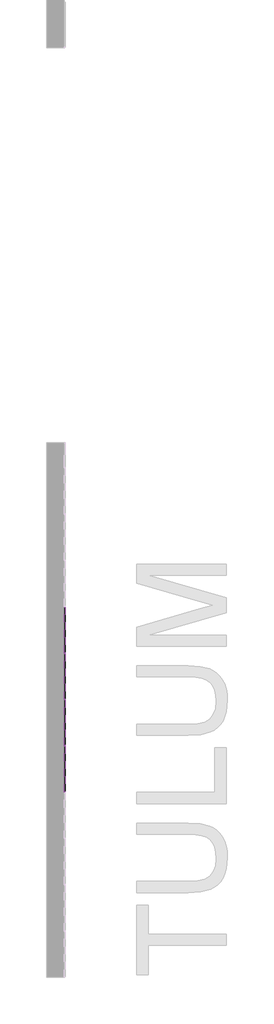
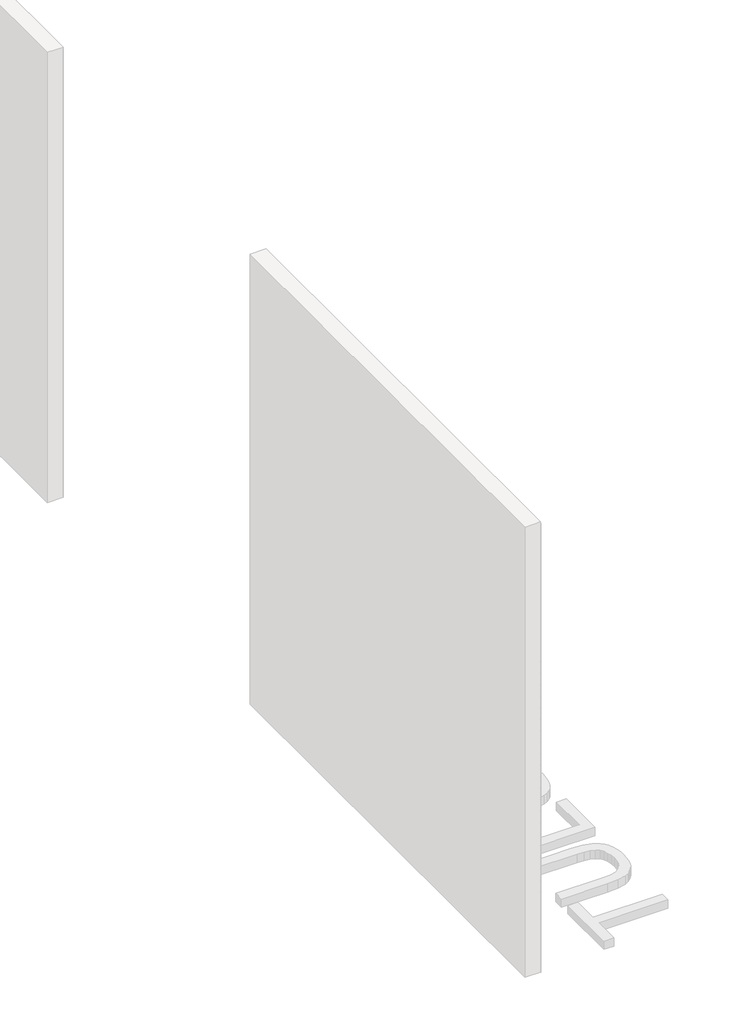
# One storey, part 37 of 45: 147 proxies.
"""IFC4 building model written with IfcOpenShell, lengths in millimetres."""

from ifc_helpers import new_model, si_unit, origin, place, context, project, spatial, transform, mapped, element, save
from components import generic_models_ab0f2c30, generic_models_8360c89e

model = new_model("IFC4")

# Units and contexts
model_context = context("Model", 3, world=origin())
ifc_project = project(units=[si_unit("LENGTHUNIT", "METRE", prefix="MILLI")], contexts=[model_context])

# Site, building, storey
site = spatial("IfcSite", under=ifc_project)
building = spatial("IfcBuilding", under=site)
storey = spatial("IfcBuildingStorey", under=building, Name="PORTOBELLO - SHOWROOM", Elevation=0.0)

# Proxies
placement = place(None, origin())
generic_models_shape = generic_models_ab0f2c30(model_context)
element("IfcBuildingElementProxy", 1, Name="PBSHOP - HORIZONTES TULUM 6,5X23 : TULUM", ObjectType="PBSHOP - HORIZONTES TULUM 6,5X23 : TULUM", at=placement, inside=storey, context=model_context, shape_type="MappedRepresentation", body=[
    mapped(generic_models_shape, transform((69111.8826867, 17058.0588567, 34.5), x_axis=(0.0, 0.0, 1.0), y_axis=(0.0, -1.0, 0.0), z_axis=(1.0, 0.0, 0.0))),
])
element("IfcBuildingElementProxy", 2, Name="PBSHOP - HORIZONTES TULUM 6,5X23 : TULUM", ObjectType="PBSHOP - HORIZONTES TULUM 6,5X23 : TULUM", at=placement, inside=storey, context=model_context, shape_type="MappedRepresentation", body=[
    mapped(generic_models_shape, transform((69111.8826867, 17292.0588567, 34.5), x_axis=(0.0, 0.0, 1.0), y_axis=(0.0, -1.0, 0.0), z_axis=(1.0, 0.0, 0.0))),
])
element("IfcBuildingElementProxy", 3, Name="PBSHOP - HORIZONTES TULUM 6,5X23 : TULUM", ObjectType="PBSHOP - HORIZONTES TULUM 6,5X23 : TULUM", at=placement, inside=storey, context=model_context, shape_type="MappedRepresentation", body=[
    mapped(generic_models_shape, transform((69111.8826867, 17526.0588567, 34.5), x_axis=(0.0, 0.0, 1.0), y_axis=(0.0, -1.0, 0.0), z_axis=(1.0, 0.0, 0.0))),
])
element("IfcBuildingElementProxy", 4, Name="PBSHOP - HORIZONTES TULUM 6,5X23 : TULUM", ObjectType="PBSHOP - HORIZONTES TULUM 6,5X23 : TULUM", at=placement, inside=storey, context=model_context, shape_type="MappedRepresentation", body=[
    mapped(generic_models_shape, transform((69111.8826867, 17058.0588567, 103.5), x_axis=(0.0, 0.0, 1.0), y_axis=(0.0, -1.0, 0.0), z_axis=(1.0, 0.0, 0.0))),
])
element("IfcBuildingElementProxy", 5, Name="PBSHOP - HORIZONTES TULUM 6,5X23 : TULUM", ObjectType="PBSHOP - HORIZONTES TULUM 6,5X23 : TULUM", at=placement, inside=storey, context=model_context, shape_type="MappedRepresentation", body=[
    mapped(generic_models_shape, transform((69111.8826867, 17292.0588567, 103.5), x_axis=(0.0, 0.0, 1.0), y_axis=(0.0, -1.0, 0.0), z_axis=(1.0, 0.0, 0.0))),
])
element("IfcBuildingElementProxy", 6, Name="PBSHOP - HORIZONTES TULUM 6,5X23 : TULUM", ObjectType="PBSHOP - HORIZONTES TULUM 6,5X23 : TULUM", at=placement, inside=storey, context=model_context, shape_type="MappedRepresentation", body=[
    mapped(generic_models_shape, transform((69111.8826867, 17526.0588567, 103.5), x_axis=(0.0, 0.0, 1.0), y_axis=(0.0, -1.0, 0.0), z_axis=(1.0, 0.0, 0.0))),
])
element("IfcBuildingElementProxy", 7, Name="PBSHOP - HORIZONTES TULUM 6,5X23 : TULUM", ObjectType="PBSHOP - HORIZONTES TULUM 6,5X23 : TULUM", at=placement, inside=storey, context=model_context, shape_type="MappedRepresentation", body=[
    mapped(generic_models_shape, transform((69111.8826867, 17058.0588567, 172.5), x_axis=(0.0, 0.0, 1.0), y_axis=(0.0, -1.0, 0.0), z_axis=(1.0, 0.0, 0.0))),
])
element("IfcBuildingElementProxy", 8, Name="PBSHOP - HORIZONTES TULUM 6,5X23 : TULUM", ObjectType="PBSHOP - HORIZONTES TULUM 6,5X23 : TULUM", at=placement, inside=storey, context=model_context, shape_type="MappedRepresentation", body=[
    mapped(generic_models_shape, transform((69111.8826867, 16590.0588567, 310.5), x_axis=(0.0, 0.0, 1.0), y_axis=(0.0, -1.0, 0.0), z_axis=(1.0, 0.0, 0.0))),
])
element("IfcBuildingElementProxy", 9, Name="PBSHOP - HORIZONTES TULUM 6,5X23 : TULUM", ObjectType="PBSHOP - HORIZONTES TULUM 6,5X23 : TULUM", at=placement, inside=storey, context=model_context, shape_type="MappedRepresentation", body=[
    mapped(generic_models_shape, transform((69111.8826867, 16824.0588567, 310.5), x_axis=(0.0, 0.0, 1.0), y_axis=(0.0, -1.0, 0.0), z_axis=(1.0, 0.0, 0.0))),
])
element("IfcBuildingElementProxy", 10, Name="PBSHOP - HORIZONTES TULUM 6,5X23 : TULUM", ObjectType="PBSHOP - HORIZONTES TULUM 6,5X23 : TULUM", at=placement, inside=storey, context=model_context, shape_type="MappedRepresentation", body=[
    mapped(generic_models_shape, transform((69111.8826867, 16122.0588567, 379.5), x_axis=(0.0, 0.0, 1.0), y_axis=(0.0, -1.0, 0.0), z_axis=(1.0, 0.0, 0.0))),
])
element("IfcBuildingElementProxy", 11, Name="PBSHOP - HORIZONTES TULUM 6,5X23 : TULUM", ObjectType="PBSHOP - HORIZONTES TULUM 6,5X23 : TULUM", at=placement, inside=storey, context=model_context, shape_type="MappedRepresentation", body=[
    mapped(generic_models_shape, transform((69111.8826867, 16356.0588567, 379.5), x_axis=(0.0, 0.0, 1.0), y_axis=(0.0, -1.0, 0.0), z_axis=(1.0, 0.0, 0.0))),
])
element("IfcBuildingElementProxy", 12, Name="PBSHOP - HORIZONTES TULUM 6,5X23 : TULUM", ObjectType="PBSHOP - HORIZONTES TULUM 6,5X23 : TULUM", at=placement, inside=storey, context=model_context, shape_type="MappedRepresentation", body=[
    mapped(generic_models_shape, transform((69111.8826867, 16590.0588567, 379.5), x_axis=(0.0, 0.0, 1.0), y_axis=(0.0, -1.0, 0.0), z_axis=(1.0, 0.0, 0.0))),
])
element("IfcBuildingElementProxy", 13, Name="PBSHOP - HORIZONTES TULUM 6,5X23 : TULUM", ObjectType="PBSHOP - HORIZONTES TULUM 6,5X23 : TULUM", at=placement, inside=storey, context=model_context, shape_type="MappedRepresentation", body=[
    mapped(generic_models_shape, transform((69111.8826867, 16824.0588567, 379.5), x_axis=(0.0, 0.0, 1.0), y_axis=(0.0, -1.0, 0.0), z_axis=(1.0, 0.0, 0.0))),
])
element("IfcBuildingElementProxy", 14, Name="PBSHOP - HORIZONTES TULUM 6,5X23 : TULUM", ObjectType="PBSHOP - HORIZONTES TULUM 6,5X23 : TULUM", at=placement, inside=storey, context=model_context, shape_type="MappedRepresentation", body=[
    mapped(generic_models_shape, transform((69111.8826867, 16122.0588567, 448.5), x_axis=(0.0, 0.0, 1.0), y_axis=(0.0, -1.0, 0.0), z_axis=(1.0, 0.0, 0.0))),
])
element("IfcBuildingElementProxy", 15, Name="PBSHOP - HORIZONTES TULUM 6,5X23 : TULUM", ObjectType="PBSHOP - HORIZONTES TULUM 6,5X23 : TULUM", at=placement, inside=storey, context=model_context, shape_type="MappedRepresentation", body=[
    mapped(generic_models_shape, transform((69111.8826867, 16356.0588567, 448.5), x_axis=(0.0, 0.0, 1.0), y_axis=(0.0, -1.0, 0.0), z_axis=(1.0, 0.0, 0.0))),
])
element("IfcBuildingElementProxy", 16, Name="PBSHOP - HORIZONTES TULUM 6,5X23 : TULUM", ObjectType="PBSHOP - HORIZONTES TULUM 6,5X23 : TULUM", at=placement, inside=storey, context=model_context, shape_type="MappedRepresentation", body=[
    mapped(generic_models_shape, transform((69111.8826867, 16590.0588567, 448.5), x_axis=(0.0, 0.0, 1.0), y_axis=(0.0, -1.0, 0.0), z_axis=(1.0, 0.0, 0.0))),
])
element("IfcBuildingElementProxy", 17, Name="PBSHOP - HORIZONTES TULUM 6,5X23 : TULUM", ObjectType="PBSHOP - HORIZONTES TULUM 6,5X23 : TULUM", at=placement, inside=storey, context=model_context, shape_type="MappedRepresentation", body=[
    mapped(generic_models_shape, transform((69111.8826867, 16824.0588567, 448.5), x_axis=(0.0, 0.0, 1.0), y_axis=(0.0, -1.0, 0.0), z_axis=(1.0, 0.0, 0.0))),
])
element("IfcBuildingElementProxy", 18, Name="PBSHOP - HORIZONTES TULUM 6,5X23 : TULUM", ObjectType="PBSHOP - HORIZONTES TULUM 6,5X23 : TULUM", at=placement, inside=storey, context=model_context, shape_type="MappedRepresentation", body=[
    mapped(generic_models_shape, transform((69111.8826867, 16122.0588567, 517.5), x_axis=(0.0, 0.0, 1.0), y_axis=(0.0, -1.0, 0.0), z_axis=(1.0, 0.0, 0.0))),
])
element("IfcBuildingElementProxy", 19, Name="PBSHOP - HORIZONTES TULUM 6,5X23 : TULUM", ObjectType="PBSHOP - HORIZONTES TULUM 6,5X23 : TULUM", at=placement, inside=storey, context=model_context, shape_type="MappedRepresentation", body=[
    mapped(generic_models_shape, transform((69111.8826867, 16356.0588567, 517.5), x_axis=(0.0, 0.0, 1.0), y_axis=(0.0, -1.0, 0.0), z_axis=(1.0, 0.0, 0.0))),
])
element("IfcBuildingElementProxy", 20, Name="PBSHOP - HORIZONTES TULUM 6,5X23 : TULUM", ObjectType="PBSHOP - HORIZONTES TULUM 6,5X23 : TULUM", at=placement, inside=storey, context=model_context, shape_type="MappedRepresentation", body=[
    mapped(generic_models_shape, transform((69111.8826867, 16590.0588567, 517.5), x_axis=(0.0, 0.0, 1.0), y_axis=(0.0, -1.0, 0.0), z_axis=(1.0, 0.0, 0.0))),
])
element("IfcBuildingElementProxy", 21, Name="PBSHOP - HORIZONTES TULUM 6,5X23 : TULUM", ObjectType="PBSHOP - HORIZONTES TULUM 6,5X23 : TULUM", at=placement, inside=storey, context=model_context, shape_type="MappedRepresentation", body=[
    mapped(generic_models_shape, transform((69111.8826867, 16824.0588567, 517.5), x_axis=(0.0, 0.0, 1.0), y_axis=(0.0, -1.0, 0.0), z_axis=(1.0, 0.0, 0.0))),
])
element("IfcBuildingElementProxy", 22, Name="PBSHOP - HORIZONTES TULUM 6,5X23 : TULUM", ObjectType="PBSHOP - HORIZONTES TULUM 6,5X23 : TULUM", at=placement, inside=storey, context=model_context, shape_type="MappedRepresentation", body=[
    mapped(generic_models_shape, transform((69111.8826867, 16122.0588567, 586.5), x_axis=(0.0, 0.0, 1.0), y_axis=(0.0, -1.0, 0.0), z_axis=(1.0, 0.0, 0.0))),
])
element("IfcBuildingElementProxy", 23, Name="PBSHOP - HORIZONTES TULUM 6,5X23 : TULUM", ObjectType="PBSHOP - HORIZONTES TULUM 6,5X23 : TULUM", at=placement, inside=storey, context=model_context, shape_type="MappedRepresentation", body=[
    mapped(generic_models_shape, transform((69111.8826867, 16356.0588567, 586.5), x_axis=(0.0, 0.0, 1.0), y_axis=(0.0, -1.0, 0.0), z_axis=(1.0, 0.0, 0.0))),
])
element("IfcBuildingElementProxy", 24, Name="PBSHOP - HORIZONTES TULUM 6,5X23 : TULUM", ObjectType="PBSHOP - HORIZONTES TULUM 6,5X23 : TULUM", at=placement, inside=storey, context=model_context, shape_type="MappedRepresentation", body=[
    mapped(generic_models_shape, transform((69111.8826867, 16590.0588567, 586.5), x_axis=(0.0, 0.0, 1.0), y_axis=(0.0, -1.0, 0.0), z_axis=(1.0, 0.0, 0.0))),
])
element("IfcBuildingElementProxy", 25, Name="PBSHOP - HORIZONTES TULUM 6,5X23 : TULUM", ObjectType="PBSHOP - HORIZONTES TULUM 6,5X23 : TULUM", at=placement, inside=storey, context=model_context, shape_type="MappedRepresentation", body=[
    mapped(generic_models_shape, transform((69111.8826867, 16824.0588567, 586.5), x_axis=(0.0, 0.0, 1.0), y_axis=(0.0, -1.0, 0.0), z_axis=(1.0, 0.0, 0.0))),
])
element("IfcBuildingElementProxy", 26, Name="PBSHOP - HORIZONTES TULUM 6,5X23 : TULUM", ObjectType="PBSHOP - HORIZONTES TULUM 6,5X23 : TULUM", at=placement, inside=storey, context=model_context, shape_type="MappedRepresentation", body=[
    mapped(generic_models_shape, transform((69111.8826867, 16122.0588567, 655.5), x_axis=(0.0, 0.0, 1.0), y_axis=(0.0, -1.0, 0.0), z_axis=(1.0, 0.0, 0.0))),
])
element("IfcBuildingElementProxy", 27, Name="PBSHOP - HORIZONTES TULUM 6,5X23 : TULUM", ObjectType="PBSHOP - HORIZONTES TULUM 6,5X23 : TULUM", at=placement, inside=storey, context=model_context, shape_type="MappedRepresentation", body=[
    mapped(generic_models_shape, transform((69111.8826867, 16356.0588567, 655.5), x_axis=(0.0, 0.0, 1.0), y_axis=(0.0, -1.0, 0.0), z_axis=(1.0, 0.0, 0.0))),
])
element("IfcBuildingElementProxy", 28, Name="PBSHOP - HORIZONTES TULUM 6,5X23 : TULUM", ObjectType="PBSHOP - HORIZONTES TULUM 6,5X23 : TULUM", at=placement, inside=storey, context=model_context, shape_type="MappedRepresentation", body=[
    mapped(generic_models_shape, transform((69111.8826867, 16590.0588567, 655.5), x_axis=(0.0, 0.0, 1.0), y_axis=(0.0, -1.0, 0.0), z_axis=(1.0, 0.0, 0.0))),
])
element("IfcBuildingElementProxy", 29, Name="PBSHOP - HORIZONTES TULUM 6,5X23 : TULUM", ObjectType="PBSHOP - HORIZONTES TULUM 6,5X23 : TULUM", at=placement, inside=storey, context=model_context, shape_type="MappedRepresentation", body=[
    mapped(generic_models_shape, transform((69111.8826867, 16824.0588567, 655.5), x_axis=(0.0, 0.0, 1.0), y_axis=(0.0, -1.0, 0.0), z_axis=(1.0, 0.0, 0.0))),
])
element("IfcBuildingElementProxy", 30, Name="PBSHOP - HORIZONTES TULUM 6,5X23 : TULUM", ObjectType="PBSHOP - HORIZONTES TULUM 6,5X23 : TULUM", at=placement, inside=storey, context=model_context, shape_type="MappedRepresentation", body=[
    mapped(generic_models_shape, transform((69111.8826867, 16122.0588567, 724.5), x_axis=(0.0, 0.0, 1.0), y_axis=(0.0, -1.0, 0.0), z_axis=(1.0, 0.0, 0.0))),
])
element("IfcBuildingElementProxy", 31, Name="PBSHOP - HORIZONTES TULUM 6,5X23 : TULUM", ObjectType="PBSHOP - HORIZONTES TULUM 6,5X23 : TULUM", at=placement, inside=storey, context=model_context, shape_type="MappedRepresentation", body=[
    mapped(generic_models_shape, transform((69111.8826867, 16356.0588567, 724.5), x_axis=(0.0, 0.0, 1.0), y_axis=(0.0, -1.0, 0.0), z_axis=(1.0, 0.0, 0.0))),
])
element("IfcBuildingElementProxy", 32, Name="PBSHOP - HORIZONTES TULUM 6,5X23 : TULUM", ObjectType="PBSHOP - HORIZONTES TULUM 6,5X23 : TULUM", at=placement, inside=storey, context=model_context, shape_type="MappedRepresentation", body=[
    mapped(generic_models_shape, transform((69111.8826867, 16590.0588567, 724.5), x_axis=(0.0, 0.0, 1.0), y_axis=(0.0, -1.0, 0.0), z_axis=(1.0, 0.0, 0.0))),
])
element("IfcBuildingElementProxy", 33, Name="PBSHOP - HORIZONTES TULUM 6,5X23 : TULUM", ObjectType="PBSHOP - HORIZONTES TULUM 6,5X23 : TULUM", at=placement, inside=storey, context=model_context, shape_type="MappedRepresentation", body=[
    mapped(generic_models_shape, transform((69111.8826867, 16824.0588567, 724.5), x_axis=(0.0, 0.0, 1.0), y_axis=(0.0, -1.0, 0.0), z_axis=(1.0, 0.0, 0.0))),
])
element("IfcBuildingElementProxy", 34, Name="PBSHOP - HORIZONTES TULUM 6,5X23 : TULUM", ObjectType="PBSHOP - HORIZONTES TULUM 6,5X23 : TULUM", at=placement, inside=storey, context=model_context, shape_type="MappedRepresentation", body=[
    mapped(generic_models_shape, transform((69111.8826867, 16122.0588567, 793.5), x_axis=(0.0, 0.0, 1.0), y_axis=(0.0, -1.0, 0.0), z_axis=(1.0, 0.0, 0.0))),
])
element("IfcBuildingElementProxy", 35, Name="PBSHOP - HORIZONTES TULUM 6,5X23 : TULUM", ObjectType="PBSHOP - HORIZONTES TULUM 6,5X23 : TULUM", at=placement, inside=storey, context=model_context, shape_type="MappedRepresentation", body=[
    mapped(generic_models_shape, transform((69111.8826867, 16356.0588567, 793.5), x_axis=(0.0, 0.0, 1.0), y_axis=(0.0, -1.0, 0.0), z_axis=(1.0, 0.0, 0.0))),
])
element("IfcBuildingElementProxy", 36, Name="PBSHOP - HORIZONTES TULUM 6,5X23 : TULUM", ObjectType="PBSHOP - HORIZONTES TULUM 6,5X23 : TULUM", at=placement, inside=storey, context=model_context, shape_type="MappedRepresentation", body=[
    mapped(generic_models_shape, transform((69111.8826867, 16590.0588567, 793.5), x_axis=(0.0, 0.0, 1.0), y_axis=(0.0, -1.0, 0.0), z_axis=(1.0, 0.0, 0.0))),
])
element("IfcBuildingElementProxy", 37, Name="PBSHOP - HORIZONTES TULUM 6,5X23 : TULUM", ObjectType="PBSHOP - HORIZONTES TULUM 6,5X23 : TULUM", at=placement, inside=storey, context=model_context, shape_type="MappedRepresentation", body=[
    mapped(generic_models_shape, transform((69111.8826867, 16824.0588567, 793.5), x_axis=(0.0, 0.0, 1.0), y_axis=(0.0, -1.0, 0.0), z_axis=(1.0, 0.0, 0.0))),
])
element("IfcBuildingElementProxy", 38, Name="PBSHOP - HORIZONTES TULUM 6,5X23 : TULUM", ObjectType="PBSHOP - HORIZONTES TULUM 6,5X23 : TULUM", at=placement, inside=storey, context=model_context, shape_type="MappedRepresentation", body=[
    mapped(generic_models_shape, transform((69111.8826867, 16122.0588567, 862.5), x_axis=(0.0, 0.0, 1.0), y_axis=(0.0, -1.0, 0.0), z_axis=(1.0, 0.0, 0.0))),
])
element("IfcBuildingElementProxy", 39, Name="PBSHOP - HORIZONTES TULUM 6,5X23 : TULUM", ObjectType="PBSHOP - HORIZONTES TULUM 6,5X23 : TULUM", at=placement, inside=storey, context=model_context, shape_type="MappedRepresentation", body=[
    mapped(generic_models_shape, transform((69111.8826867, 16356.0588567, 862.5), x_axis=(0.0, 0.0, 1.0), y_axis=(0.0, -1.0, 0.0), z_axis=(1.0, 0.0, 0.0))),
])
element("IfcBuildingElementProxy", 40, Name="PBSHOP - HORIZONTES TULUM 6,5X23 : TULUM", ObjectType="PBSHOP - HORIZONTES TULUM 6,5X23 : TULUM", at=placement, inside=storey, context=model_context, shape_type="MappedRepresentation", body=[
    mapped(generic_models_shape, transform((69111.8826867, 16590.0588567, 862.5), x_axis=(0.0, 0.0, 1.0), y_axis=(0.0, -1.0, 0.0), z_axis=(1.0, 0.0, 0.0))),
])
element("IfcBuildingElementProxy", 41, Name="PBSHOP - HORIZONTES TULUM 6,5X23 : TULUM", ObjectType="PBSHOP - HORIZONTES TULUM 6,5X23 : TULUM", at=placement, inside=storey, context=model_context, shape_type="MappedRepresentation", body=[
    mapped(generic_models_shape, transform((69111.8826867, 16824.0588567, 862.5), x_axis=(0.0, 0.0, 1.0), y_axis=(0.0, -1.0, 0.0), z_axis=(1.0, 0.0, 0.0))),
])
element("IfcBuildingElementProxy", 42, Name="PBSHOP - HORIZONTES TULUM 6,5X23 : TULUM", ObjectType="PBSHOP - HORIZONTES TULUM 6,5X23 : TULUM", at=placement, inside=storey, context=model_context, shape_type="MappedRepresentation", body=[
    mapped(generic_models_shape, transform((69111.8826867, 16122.0588567, 931.5), x_axis=(0.0, 0.0, 1.0), y_axis=(0.0, -1.0, 0.0), z_axis=(1.0, 0.0, 0.0))),
])
element("IfcBuildingElementProxy", 43, Name="PBSHOP - HORIZONTES TULUM 6,5X23 : TULUM", ObjectType="PBSHOP - HORIZONTES TULUM 6,5X23 : TULUM", at=placement, inside=storey, context=model_context, shape_type="MappedRepresentation", body=[
    mapped(generic_models_shape, transform((69111.8826867, 16356.0588567, 931.5), x_axis=(0.0, 0.0, 1.0), y_axis=(0.0, -1.0, 0.0), z_axis=(1.0, 0.0, 0.0))),
])
element("IfcBuildingElementProxy", 44, Name="PBSHOP - HORIZONTES TULUM 6,5X23 : TULUM", ObjectType="PBSHOP - HORIZONTES TULUM 6,5X23 : TULUM", at=placement, inside=storey, context=model_context, shape_type="MappedRepresentation", body=[
    mapped(generic_models_shape, transform((69111.8826867, 16590.0588567, 931.5), x_axis=(0.0, 0.0, 1.0), y_axis=(0.0, -1.0, 0.0), z_axis=(1.0, 0.0, 0.0))),
])
element("IfcBuildingElementProxy", 45, Name="PBSHOP - HORIZONTES TULUM 6,5X23 : TULUM", ObjectType="PBSHOP - HORIZONTES TULUM 6,5X23 : TULUM", at=placement, inside=storey, context=model_context, shape_type="MappedRepresentation", body=[
    mapped(generic_models_shape, transform((69111.8826867, 16824.0588567, 931.5), x_axis=(0.0, 0.0, 1.0), y_axis=(0.0, -1.0, 0.0), z_axis=(1.0, 0.0, 0.0))),
])
element("IfcBuildingElementProxy", 46, Name="PBSHOP - HORIZONTES TULUM 6,5X23 : TULUM", ObjectType="PBSHOP - HORIZONTES TULUM 6,5X23 : TULUM", at=placement, inside=storey, context=model_context, shape_type="MappedRepresentation", body=[
    mapped(generic_models_shape, transform((69111.8826867, 16122.0588567, 1000.5), x_axis=(0.0, 0.0, 1.0), y_axis=(0.0, -1.0, 0.0), z_axis=(1.0, 0.0, 0.0))),
])
element("IfcBuildingElementProxy", 47, Name="PBSHOP - HORIZONTES TULUM 6,5X23 : TULUM", ObjectType="PBSHOP - HORIZONTES TULUM 6,5X23 : TULUM", at=placement, inside=storey, context=model_context, shape_type="MappedRepresentation", body=[
    mapped(generic_models_shape, transform((69111.8826867, 16356.0588567, 1000.5), x_axis=(0.0, 0.0, 1.0), y_axis=(0.0, -1.0, 0.0), z_axis=(1.0, 0.0, 0.0))),
])
element("IfcBuildingElementProxy", 48, Name="PBSHOP - HORIZONTES TULUM 6,5X23 : TULUM", ObjectType="PBSHOP - HORIZONTES TULUM 6,5X23 : TULUM", at=placement, inside=storey, context=model_context, shape_type="MappedRepresentation", body=[
    mapped(generic_models_shape, transform((69111.8826867, 16590.0588567, 1000.5), x_axis=(0.0, 0.0, 1.0), y_axis=(0.0, -1.0, 0.0), z_axis=(1.0, 0.0, 0.0))),
])
element("IfcBuildingElementProxy", 49, Name="PBSHOP - HORIZONTES TULUM 6,5X23 : TULUM", ObjectType="PBSHOP - HORIZONTES TULUM 6,5X23 : TULUM", at=placement, inside=storey, context=model_context, shape_type="MappedRepresentation", body=[
    mapped(generic_models_shape, transform((69111.8826867, 16824.0588567, 1000.5), x_axis=(0.0, 0.0, 1.0), y_axis=(0.0, -1.0, 0.0), z_axis=(1.0, 0.0, 0.0))),
])
element("IfcBuildingElementProxy", 50, Name="PBSHOP - HORIZONTES TULUM 6,5X23 : TULUM", ObjectType="PBSHOP - HORIZONTES TULUM 6,5X23 : TULUM", at=placement, inside=storey, context=model_context, shape_type="MappedRepresentation", body=[
    mapped(generic_models_shape, transform((69111.8826867, 16122.0588567, 1069.5), x_axis=(0.0, 0.0, 1.0), y_axis=(0.0, -1.0, 0.0), z_axis=(1.0, 0.0, 0.0))),
])
element("IfcBuildingElementProxy", 51, Name="PBSHOP - HORIZONTES TULUM 6,5X23 : TULUM", ObjectType="PBSHOP - HORIZONTES TULUM 6,5X23 : TULUM", at=placement, inside=storey, context=model_context, shape_type="MappedRepresentation", body=[
    mapped(generic_models_shape, transform((69111.8826867, 16356.0588567, 1069.5), x_axis=(0.0, 0.0, 1.0), y_axis=(0.0, -1.0, 0.0), z_axis=(1.0, 0.0, 0.0))),
])
element("IfcBuildingElementProxy", 52, Name="PBSHOP - HORIZONTES TULUM 6,5X23 : TULUM", ObjectType="PBSHOP - HORIZONTES TULUM 6,5X23 : TULUM", at=placement, inside=storey, context=model_context, shape_type="MappedRepresentation", body=[
    mapped(generic_models_shape, transform((69111.8826867, 16590.0588567, 1069.5), x_axis=(0.0, 0.0, 1.0), y_axis=(0.0, -1.0, 0.0), z_axis=(1.0, 0.0, 0.0))),
])
element("IfcBuildingElementProxy", 53, Name="PBSHOP - HORIZONTES TULUM 6,5X23 : TULUM", ObjectType="PBSHOP - HORIZONTES TULUM 6,5X23 : TULUM", at=placement, inside=storey, context=model_context, shape_type="MappedRepresentation", body=[
    mapped(generic_models_shape, transform((69111.8826867, 16824.0588567, 1069.5), x_axis=(0.0, 0.0, 1.0), y_axis=(0.0, -1.0, 0.0), z_axis=(1.0, 0.0, 0.0))),
])
element("IfcBuildingElementProxy", 54, Name="PBSHOP - HORIZONTES TULUM 6,5X23 : TULUM", ObjectType="PBSHOP - HORIZONTES TULUM 6,5X23 : TULUM", at=placement, inside=storey, context=model_context, shape_type="MappedRepresentation", body=[
    mapped(generic_models_shape, transform((69111.8826867, 16122.0588567, 1138.5), x_axis=(0.0, 0.0, 1.0), y_axis=(0.0, -1.0, 0.0), z_axis=(1.0, 0.0, 0.0))),
])
element("IfcBuildingElementProxy", 55, Name="PBSHOP - HORIZONTES TULUM 6,5X23 : TULUM", ObjectType="PBSHOP - HORIZONTES TULUM 6,5X23 : TULUM", at=placement, inside=storey, context=model_context, shape_type="MappedRepresentation", body=[
    mapped(generic_models_shape, transform((69111.8826867, 16356.0588567, 1138.5), x_axis=(0.0, 0.0, 1.0), y_axis=(0.0, -1.0, 0.0), z_axis=(1.0, 0.0, 0.0))),
])
element("IfcBuildingElementProxy", 56, Name="PBSHOP - HORIZONTES TULUM 6,5X23 : TULUM", ObjectType="PBSHOP - HORIZONTES TULUM 6,5X23 : TULUM", at=placement, inside=storey, context=model_context, shape_type="MappedRepresentation", body=[
    mapped(generic_models_shape, transform((69111.8826867, 16590.0588567, 1138.5), x_axis=(0.0, 0.0, 1.0), y_axis=(0.0, -1.0, 0.0), z_axis=(1.0, 0.0, 0.0))),
])
element("IfcBuildingElementProxy", 57, Name="PBSHOP - HORIZONTES TULUM 6,5X23 : TULUM", ObjectType="PBSHOP - HORIZONTES TULUM 6,5X23 : TULUM", at=placement, inside=storey, context=model_context, shape_type="MappedRepresentation", body=[
    mapped(generic_models_shape, transform((69111.8826867, 16824.0588567, 1138.5), x_axis=(0.0, 0.0, 1.0), y_axis=(0.0, -1.0, 0.0), z_axis=(1.0, 0.0, 0.0))),
])
element("IfcBuildingElementProxy", 58, Name="PBSHOP - HORIZONTES TULUM 6,5X23 : TULUM", ObjectType="PBSHOP - HORIZONTES TULUM 6,5X23 : TULUM", at=placement, inside=storey, context=model_context, shape_type="MappedRepresentation", body=[
    mapped(generic_models_shape, transform((69111.8826867, 16122.0588567, 1207.5), x_axis=(0.0, 0.0, 1.0), y_axis=(0.0, -1.0, 0.0), z_axis=(1.0, 0.0, 0.0))),
])
element("IfcBuildingElementProxy", 59, Name="PBSHOP - HORIZONTES TULUM 6,5X23 : TULUM", ObjectType="PBSHOP - HORIZONTES TULUM 6,5X23 : TULUM", at=placement, inside=storey, context=model_context, shape_type="MappedRepresentation", body=[
    mapped(generic_models_shape, transform((69111.8826867, 16356.0588567, 1207.5), x_axis=(0.0, 0.0, 1.0), y_axis=(0.0, -1.0, 0.0), z_axis=(1.0, 0.0, 0.0))),
])
element("IfcBuildingElementProxy", 60, Name="PBSHOP - HORIZONTES TULUM 6,5X23 : TULUM", ObjectType="PBSHOP - HORIZONTES TULUM 6,5X23 : TULUM", at=placement, inside=storey, context=model_context, shape_type="MappedRepresentation", body=[
    mapped(generic_models_shape, transform((69111.8826867, 16590.0588567, 1207.5), x_axis=(0.0, 0.0, 1.0), y_axis=(0.0, -1.0, 0.0), z_axis=(1.0, 0.0, 0.0))),
])
element("IfcBuildingElementProxy", 61, Name="PBSHOP - HORIZONTES TULUM 6,5X23 : TULUM", ObjectType="PBSHOP - HORIZONTES TULUM 6,5X23 : TULUM", at=placement, inside=storey, context=model_context, shape_type="MappedRepresentation", body=[
    mapped(generic_models_shape, transform((69111.8826867, 16824.0588567, 1207.5), x_axis=(0.0, 0.0, 1.0), y_axis=(0.0, -1.0, 0.0), z_axis=(1.0, 0.0, 0.0))),
])
element("IfcBuildingElementProxy", 62, Name="PBSHOP - HORIZONTES TULUM 6,5X23 : TULUM", ObjectType="PBSHOP - HORIZONTES TULUM 6,5X23 : TULUM", at=placement, inside=storey, context=model_context, shape_type="MappedRepresentation", body=[
    mapped(generic_models_shape, transform((69111.8826867, 16122.0588567, 1276.5), x_axis=(0.0, 0.0, 1.0), y_axis=(0.0, -1.0, 0.0), z_axis=(1.0, 0.0, 0.0))),
])
element("IfcBuildingElementProxy", 63, Name="PBSHOP - HORIZONTES TULUM 6,5X23 : TULUM", ObjectType="PBSHOP - HORIZONTES TULUM 6,5X23 : TULUM", at=placement, inside=storey, context=model_context, shape_type="MappedRepresentation", body=[
    mapped(generic_models_shape, transform((69111.8826867, 16356.0588567, 1276.5), x_axis=(0.0, 0.0, 1.0), y_axis=(0.0, -1.0, 0.0), z_axis=(1.0, 0.0, 0.0))),
])
element("IfcBuildingElementProxy", 64, Name="PBSHOP - HORIZONTES TULUM 6,5X23 : TULUM", ObjectType="PBSHOP - HORIZONTES TULUM 6,5X23 : TULUM", at=placement, inside=storey, context=model_context, shape_type="MappedRepresentation", body=[
    mapped(generic_models_shape, transform((69111.8826867, 16590.0588567, 1276.5), x_axis=(0.0, 0.0, 1.0), y_axis=(0.0, -1.0, 0.0), z_axis=(1.0, 0.0, 0.0))),
])
element("IfcBuildingElementProxy", 65, Name="PBSHOP - HORIZONTES TULUM 6,5X23 : TULUM", ObjectType="PBSHOP - HORIZONTES TULUM 6,5X23 : TULUM", at=placement, inside=storey, context=model_context, shape_type="MappedRepresentation", body=[
    mapped(generic_models_shape, transform((69111.8826867, 16824.0588567, 1276.5), x_axis=(0.0, 0.0, 1.0), y_axis=(0.0, -1.0, 0.0), z_axis=(1.0, 0.0, 0.0))),
])
element("IfcBuildingElementProxy", 66, Name="PBSHOP - HORIZONTES TULUM 6,5X23 : TULUM", ObjectType="PBSHOP - HORIZONTES TULUM 6,5X23 : TULUM", at=placement, inside=storey, context=model_context, shape_type="MappedRepresentation", body=[
    mapped(generic_models_shape, transform((69111.8826867, 16122.0588567, 1345.5), x_axis=(0.0, 0.0, 1.0), y_axis=(0.0, -1.0, 0.0), z_axis=(1.0, 0.0, 0.0))),
])
element("IfcBuildingElementProxy", 67, Name="PBSHOP - HORIZONTES TULUM 6,5X23 : TULUM", ObjectType="PBSHOP - HORIZONTES TULUM 6,5X23 : TULUM", at=placement, inside=storey, context=model_context, shape_type="MappedRepresentation", body=[
    mapped(generic_models_shape, transform((69111.8826867, 16356.0588567, 1345.5), x_axis=(0.0, 0.0, 1.0), y_axis=(0.0, -1.0, 0.0), z_axis=(1.0, 0.0, 0.0))),
])
element("IfcBuildingElementProxy", 68, Name="PBSHOP - HORIZONTES TULUM 6,5X23 : TULUM", ObjectType="PBSHOP - HORIZONTES TULUM 6,5X23 : TULUM", at=placement, inside=storey, context=model_context, shape_type="MappedRepresentation", body=[
    mapped(generic_models_shape, transform((69111.8826867, 16590.0588567, 1345.5), x_axis=(0.0, 0.0, 1.0), y_axis=(0.0, -1.0, 0.0), z_axis=(1.0, 0.0, 0.0))),
])
element("IfcBuildingElementProxy", 69, Name="PBSHOP - HORIZONTES TULUM 6,5X23 : TULUM", ObjectType="PBSHOP - HORIZONTES TULUM 6,5X23 : TULUM", at=placement, inside=storey, context=model_context, shape_type="MappedRepresentation", body=[
    mapped(generic_models_shape, transform((69111.8826867, 16824.0588567, 1345.5), x_axis=(0.0, 0.0, 1.0), y_axis=(0.0, -1.0, 0.0), z_axis=(1.0, 0.0, 0.0))),
])
element("IfcBuildingElementProxy", 70, Name="PBSHOP - HORIZONTES TULUM 6,5X23 : TULUM", ObjectType="PBSHOP - HORIZONTES TULUM 6,5X23 : TULUM", at=placement, inside=storey, context=model_context, shape_type="MappedRepresentation", body=[
    mapped(generic_models_shape, transform((69111.8826867, 16122.0588567, 1414.5), x_axis=(0.0, 0.0, 1.0), y_axis=(0.0, -1.0, 0.0), z_axis=(1.0, 0.0, 0.0))),
])
element("IfcBuildingElementProxy", 71, Name="PBSHOP - HORIZONTES TULUM 6,5X23 : TULUM", ObjectType="PBSHOP - HORIZONTES TULUM 6,5X23 : TULUM", at=placement, inside=storey, context=model_context, shape_type="MappedRepresentation", body=[
    mapped(generic_models_shape, transform((69111.8826867, 16356.0588567, 1414.5), x_axis=(0.0, 0.0, 1.0), y_axis=(0.0, -1.0, 0.0), z_axis=(1.0, 0.0, 0.0))),
])
element("IfcBuildingElementProxy", 72, Name="PBSHOP - HORIZONTES TULUM 6,5X23 : TULUM", ObjectType="PBSHOP - HORIZONTES TULUM 6,5X23 : TULUM", at=placement, inside=storey, context=model_context, shape_type="MappedRepresentation", body=[
    mapped(generic_models_shape, transform((69111.8826867, 16590.0588567, 1414.5), x_axis=(0.0, 0.0, 1.0), y_axis=(0.0, -1.0, 0.0), z_axis=(1.0, 0.0, 0.0))),
])
element("IfcBuildingElementProxy", 73, Name="PBSHOP - HORIZONTES TULUM 6,5X23 : TULUM", ObjectType="PBSHOP - HORIZONTES TULUM 6,5X23 : TULUM", at=placement, inside=storey, context=model_context, shape_type="MappedRepresentation", body=[
    mapped(generic_models_shape, transform((69111.8826867, 16824.0588567, 1414.5), x_axis=(0.0, 0.0, 1.0), y_axis=(0.0, -1.0, 0.0), z_axis=(1.0, 0.0, 0.0))),
])
element("IfcBuildingElementProxy", 74, Name="PBSHOP - HORIZONTES TULUM 6,5X23 : TULUM", ObjectType="PBSHOP - HORIZONTES TULUM 6,5X23 : TULUM", at=placement, inside=storey, context=model_context, shape_type="MappedRepresentation", body=[
    mapped(generic_models_shape, transform((69111.8826867, 16122.0588567, 1483.5), x_axis=(0.0, 0.0, 1.0), y_axis=(0.0, -1.0, 0.0), z_axis=(1.0, 0.0, 0.0))),
])
element("IfcBuildingElementProxy", 75, Name="PBSHOP - HORIZONTES TULUM 6,5X23 : TULUM", ObjectType="PBSHOP - HORIZONTES TULUM 6,5X23 : TULUM", at=placement, inside=storey, context=model_context, shape_type="MappedRepresentation", body=[
    mapped(generic_models_shape, transform((69111.8826867, 16356.0588567, 1483.5), x_axis=(0.0, 0.0, 1.0), y_axis=(0.0, -1.0, 0.0), z_axis=(1.0, 0.0, 0.0))),
])
element("IfcBuildingElementProxy", 76, Name="PBSHOP - HORIZONTES TULUM 6,5X23 : TULUM", ObjectType="PBSHOP - HORIZONTES TULUM 6,5X23 : TULUM", at=placement, inside=storey, context=model_context, shape_type="MappedRepresentation", body=[
    mapped(generic_models_shape, transform((69111.8826867, 16590.0588567, 1483.5), x_axis=(0.0, 0.0, 1.0), y_axis=(0.0, -1.0, 0.0), z_axis=(1.0, 0.0, 0.0))),
])
element("IfcBuildingElementProxy", 77, Name="PBSHOP - HORIZONTES TULUM 6,5X23 : TULUM", ObjectType="PBSHOP - HORIZONTES TULUM 6,5X23 : TULUM", at=placement, inside=storey, context=model_context, shape_type="MappedRepresentation", body=[
    mapped(generic_models_shape, transform((69111.8826867, 16824.0588567, 1483.5), x_axis=(0.0, 0.0, 1.0), y_axis=(0.0, -1.0, 0.0), z_axis=(1.0, 0.0, 0.0))),
])
element("IfcBuildingElementProxy", 78, Name="PBSHOP - HORIZONTES TULUM 6,5X23 : TULUM", ObjectType="PBSHOP - HORIZONTES TULUM 6,5X23 : TULUM", at=placement, inside=storey, context=model_context, shape_type="MappedRepresentation", body=[
    mapped(generic_models_shape, transform((69111.8826867, 16122.0588567, 1552.5), x_axis=(0.0, 0.0, 1.0), y_axis=(0.0, -1.0, 0.0), z_axis=(1.0, 0.0, 0.0))),
])
element("IfcBuildingElementProxy", 79, Name="PBSHOP - HORIZONTES TULUM 6,5X23 : TULUM", ObjectType="PBSHOP - HORIZONTES TULUM 6,5X23 : TULUM", at=placement, inside=storey, context=model_context, shape_type="MappedRepresentation", body=[
    mapped(generic_models_shape, transform((69111.8826867, 16356.0588567, 1552.5), x_axis=(0.0, 0.0, 1.0), y_axis=(0.0, -1.0, 0.0), z_axis=(1.0, 0.0, 0.0))),
])
element("IfcBuildingElementProxy", 80, Name="PBSHOP - HORIZONTES TULUM 6,5X23 : TULUM", ObjectType="PBSHOP - HORIZONTES TULUM 6,5X23 : TULUM", at=placement, inside=storey, context=model_context, shape_type="MappedRepresentation", body=[
    mapped(generic_models_shape, transform((69111.8826867, 16590.0588567, 1552.5), x_axis=(0.0, 0.0, 1.0), y_axis=(0.0, -1.0, 0.0), z_axis=(1.0, 0.0, 0.0))),
])
element("IfcBuildingElementProxy", 81, Name="PBSHOP - HORIZONTES TULUM 6,5X23 : TULUM", ObjectType="PBSHOP - HORIZONTES TULUM 6,5X23 : TULUM", at=placement, inside=storey, context=model_context, shape_type="MappedRepresentation", body=[
    mapped(generic_models_shape, transform((69111.8826867, 16824.0588567, 1552.5), x_axis=(0.0, 0.0, 1.0), y_axis=(0.0, -1.0, 0.0), z_axis=(1.0, 0.0, 0.0))),
])
element("IfcBuildingElementProxy", 82, Name="PBSHOP - HORIZONTES TULUM 6,5X23 : TULUM", ObjectType="PBSHOP - HORIZONTES TULUM 6,5X23 : TULUM", at=placement, inside=storey, context=model_context, shape_type="MappedRepresentation", body=[
    mapped(generic_models_shape, transform((69111.8826867, 16122.0588567, 1621.5), x_axis=(0.0, 0.0, 1.0), y_axis=(0.0, -1.0, 0.0), z_axis=(1.0, 0.0, 0.0))),
])
element("IfcBuildingElementProxy", 83, Name="PBSHOP - HORIZONTES TULUM 6,5X23 : TULUM", ObjectType="PBSHOP - HORIZONTES TULUM 6,5X23 : TULUM", at=placement, inside=storey, context=model_context, shape_type="MappedRepresentation", body=[
    mapped(generic_models_shape, transform((69111.8826867, 16356.0588567, 1621.5), x_axis=(0.0, 0.0, 1.0), y_axis=(0.0, -1.0, 0.0), z_axis=(1.0, 0.0, 0.0))),
])
element("IfcBuildingElementProxy", 84, Name="PBSHOP - HORIZONTES TULUM 6,5X23 : TULUM", ObjectType="PBSHOP - HORIZONTES TULUM 6,5X23 : TULUM", at=placement, inside=storey, context=model_context, shape_type="MappedRepresentation", body=[
    mapped(generic_models_shape, transform((69111.8826867, 16590.0588567, 1621.5), x_axis=(0.0, 0.0, 1.0), y_axis=(0.0, -1.0, 0.0), z_axis=(1.0, 0.0, 0.0))),
])
element("IfcBuildingElementProxy", 85, Name="PBSHOP - HORIZONTES TULUM 6,5X23 : TULUM", ObjectType="PBSHOP - HORIZONTES TULUM 6,5X23 : TULUM", at=placement, inside=storey, context=model_context, shape_type="MappedRepresentation", body=[
    mapped(generic_models_shape, transform((69111.8826867, 16824.0588567, 1621.5), x_axis=(0.0, 0.0, 1.0), y_axis=(0.0, -1.0, 0.0), z_axis=(1.0, 0.0, 0.0))),
])
element("IfcBuildingElementProxy", 86, Name="PBSHOP - HORIZONTES TULUM 6,5X23 : TULUM", ObjectType="PBSHOP - HORIZONTES TULUM 6,5X23 : TULUM", at=placement, inside=storey, context=model_context, shape_type="MappedRepresentation", body=[
    mapped(generic_models_shape, transform((69111.8826867, 16122.0588567, 1690.5), x_axis=(0.0, 0.0, 1.0), y_axis=(0.0, -1.0, 0.0), z_axis=(1.0, 0.0, 0.0))),
])
element("IfcBuildingElementProxy", 87, Name="PBSHOP - HORIZONTES TULUM 6,5X23 : TULUM", ObjectType="PBSHOP - HORIZONTES TULUM 6,5X23 : TULUM", at=placement, inside=storey, context=model_context, shape_type="MappedRepresentation", body=[
    mapped(generic_models_shape, transform((69111.8826867, 16356.0588567, 1690.5), x_axis=(0.0, 0.0, 1.0), y_axis=(0.0, -1.0, 0.0), z_axis=(1.0, 0.0, 0.0))),
])
element("IfcBuildingElementProxy", 88, Name="PBSHOP - HORIZONTES TULUM 6,5X23 : TULUM", ObjectType="PBSHOP - HORIZONTES TULUM 6,5X23 : TULUM", at=placement, inside=storey, context=model_context, shape_type="MappedRepresentation", body=[
    mapped(generic_models_shape, transform((69111.8826867, 16590.0588567, 1690.5), x_axis=(0.0, 0.0, 1.0), y_axis=(0.0, -1.0, 0.0), z_axis=(1.0, 0.0, 0.0))),
])
element("IfcBuildingElementProxy", 89, Name="PBSHOP - HORIZONTES TULUM 6,5X23 : TULUM", ObjectType="PBSHOP - HORIZONTES TULUM 6,5X23 : TULUM", at=placement, inside=storey, context=model_context, shape_type="MappedRepresentation", body=[
    mapped(generic_models_shape, transform((69111.8826867, 16824.0588567, 1690.5), x_axis=(0.0, 0.0, 1.0), y_axis=(0.0, -1.0, 0.0), z_axis=(1.0, 0.0, 0.0))),
])
element("IfcBuildingElementProxy", 90, Name="PBSHOP - HORIZONTES TULUM 6,5X23 : TULUM", ObjectType="PBSHOP - HORIZONTES TULUM 6,5X23 : TULUM", at=placement, inside=storey, context=model_context, shape_type="MappedRepresentation", body=[
    mapped(generic_models_shape, transform((69111.8826867, 16122.0588567, 1759.5), x_axis=(0.0, 0.0, 1.0), y_axis=(0.0, -1.0, 0.0), z_axis=(1.0, 0.0, 0.0))),
])
element("IfcBuildingElementProxy", 91, Name="PBSHOP - HORIZONTES TULUM 6,5X23 : TULUM", ObjectType="PBSHOP - HORIZONTES TULUM 6,5X23 : TULUM", at=placement, inside=storey, context=model_context, shape_type="MappedRepresentation", body=[
    mapped(generic_models_shape, transform((69111.8826867, 16356.0588567, 1759.5), x_axis=(0.0, 0.0, 1.0), y_axis=(0.0, -1.0, 0.0), z_axis=(1.0, 0.0, 0.0))),
])
element("IfcBuildingElementProxy", 92, Name="PBSHOP - HORIZONTES TULUM 6,5X23 : TULUM", ObjectType="PBSHOP - HORIZONTES TULUM 6,5X23 : TULUM", at=placement, inside=storey, context=model_context, shape_type="MappedRepresentation", body=[
    mapped(generic_models_shape, transform((69111.8826867, 16590.0588567, 1759.5), x_axis=(0.0, 0.0, 1.0), y_axis=(0.0, -1.0, 0.0), z_axis=(1.0, 0.0, 0.0))),
])
element("IfcBuildingElementProxy", 93, Name="PBSHOP - HORIZONTES TULUM 6,5X23 : TULUM", ObjectType="PBSHOP - HORIZONTES TULUM 6,5X23 : TULUM", at=placement, inside=storey, context=model_context, shape_type="MappedRepresentation", body=[
    mapped(generic_models_shape, transform((69111.8826867, 16824.0588567, 1759.5), x_axis=(0.0, 0.0, 1.0), y_axis=(0.0, -1.0, 0.0), z_axis=(1.0, 0.0, 0.0))),
])
element("IfcBuildingElementProxy", 94, Name="PBSHOP - HORIZONTES TULUM 6,5X23 : TULUM", ObjectType="PBSHOP - HORIZONTES TULUM 6,5X23 : TULUM", at=placement, inside=storey, context=model_context, shape_type="MappedRepresentation", body=[
    mapped(generic_models_shape, transform((69111.8826867, 16122.0588567, 1828.5), x_axis=(0.0, 0.0, 1.0), y_axis=(0.0, -1.0, 0.0), z_axis=(1.0, 0.0, 0.0))),
])
element("IfcBuildingElementProxy", 95, Name="PBSHOP - HORIZONTES TULUM 6,5X23 : TULUM", ObjectType="PBSHOP - HORIZONTES TULUM 6,5X23 : TULUM", at=placement, inside=storey, context=model_context, shape_type="MappedRepresentation", body=[
    mapped(generic_models_shape, transform((69111.8826867, 16356.0588567, 1828.5), x_axis=(0.0, 0.0, 1.0), y_axis=(0.0, -1.0, 0.0), z_axis=(1.0, 0.0, 0.0))),
])
element("IfcBuildingElementProxy", 96, Name="PBSHOP - HORIZONTES TULUM 6,5X23 : TULUM", ObjectType="PBSHOP - HORIZONTES TULUM 6,5X23 : TULUM", at=placement, inside=storey, context=model_context, shape_type="MappedRepresentation", body=[
    mapped(generic_models_shape, transform((69111.8826867, 16590.0588567, 1828.5), x_axis=(0.0, 0.0, 1.0), y_axis=(0.0, -1.0, 0.0), z_axis=(1.0, 0.0, 0.0))),
])
element("IfcBuildingElementProxy", 97, Name="PBSHOP - HORIZONTES TULUM 6,5X23 : TULUM", ObjectType="PBSHOP - HORIZONTES TULUM 6,5X23 : TULUM", at=placement, inside=storey, context=model_context, shape_type="MappedRepresentation", body=[
    mapped(generic_models_shape, transform((69111.8826867, 16824.0588567, 1828.5), x_axis=(0.0, 0.0, 1.0), y_axis=(0.0, -1.0, 0.0), z_axis=(1.0, 0.0, 0.0))),
])
element("IfcBuildingElementProxy", 98, Name="PBSHOP - HORIZONTES TULUM 6,5X23 : TULUM", ObjectType="PBSHOP - HORIZONTES TULUM 6,5X23 : TULUM", at=placement, inside=storey, context=model_context, shape_type="MappedRepresentation", body=[
    mapped(generic_models_shape, transform((69111.8826867, 16122.0588567, 1897.5), x_axis=(0.0, 0.0, 1.0), y_axis=(0.0, -1.0, 0.0), z_axis=(1.0, 0.0, 0.0))),
])
element("IfcBuildingElementProxy", 99, Name="PBSHOP - HORIZONTES TULUM 6,5X23 : TULUM", ObjectType="PBSHOP - HORIZONTES TULUM 6,5X23 : TULUM", at=placement, inside=storey, context=model_context, shape_type="MappedRepresentation", body=[
    mapped(generic_models_shape, transform((69111.8826867, 16356.0588567, 1897.5), x_axis=(0.0, 0.0, 1.0), y_axis=(0.0, -1.0, 0.0), z_axis=(1.0, 0.0, 0.0))),
])
element("IfcBuildingElementProxy", 100, Name="PBSHOP - HORIZONTES TULUM 6,5X23 : TULUM", ObjectType="PBSHOP - HORIZONTES TULUM 6,5X23 : TULUM", at=placement, inside=storey, context=model_context, shape_type="MappedRepresentation", body=[
    mapped(generic_models_shape, transform((69111.8826867, 16590.0588567, 1897.5), x_axis=(0.0, 0.0, 1.0), y_axis=(0.0, -1.0, 0.0), z_axis=(1.0, 0.0, 0.0))),
])
element("IfcBuildingElementProxy", 101, Name="PBSHOP - HORIZONTES TULUM 6,5X23 : TULUM", ObjectType="PBSHOP - HORIZONTES TULUM 6,5X23 : TULUM", at=placement, inside=storey, context=model_context, shape_type="MappedRepresentation", body=[
    mapped(generic_models_shape, transform((69111.8826867, 16824.0588567, 1897.5), x_axis=(0.0, 0.0, 1.0), y_axis=(0.0, -1.0, 0.0), z_axis=(1.0, 0.0, 0.0))),
])
element("IfcBuildingElementProxy", 102, Name="PBSHOP - HORIZONTES TULUM 6,5X23 : TULUM", ObjectType="PBSHOP - HORIZONTES TULUM 6,5X23 : TULUM", at=placement, inside=storey, context=model_context, shape_type="MappedRepresentation", body=[
    mapped(generic_models_shape, transform((69111.8826867, 16122.0588567, 1966.5), x_axis=(0.0, 0.0, 1.0), y_axis=(0.0, -1.0, 0.0), z_axis=(1.0, 0.0, 0.0))),
])
element("IfcBuildingElementProxy", 103, Name="PBSHOP - HORIZONTES TULUM 6,5X23 : TULUM", ObjectType="PBSHOP - HORIZONTES TULUM 6,5X23 : TULUM", at=placement, inside=storey, context=model_context, shape_type="MappedRepresentation", body=[
    mapped(generic_models_shape, transform((69111.8826867, 16356.0588567, 1966.5), x_axis=(0.0, 0.0, 1.0), y_axis=(0.0, -1.0, 0.0), z_axis=(1.0, 0.0, 0.0))),
])
element("IfcBuildingElementProxy", 104, Name="PBSHOP - HORIZONTES TULUM 6,5X23 : TULUM", ObjectType="PBSHOP - HORIZONTES TULUM 6,5X23 : TULUM", at=placement, inside=storey, context=model_context, shape_type="MappedRepresentation", body=[
    mapped(generic_models_shape, transform((69111.8826867, 16590.0588567, 1966.5), x_axis=(0.0, 0.0, 1.0), y_axis=(0.0, -1.0, 0.0), z_axis=(1.0, 0.0, 0.0))),
])
element("IfcBuildingElementProxy", 105, Name="PBSHOP - HORIZONTES TULUM 6,5X23 : TULUM", ObjectType="PBSHOP - HORIZONTES TULUM 6,5X23 : TULUM", at=placement, inside=storey, context=model_context, shape_type="MappedRepresentation", body=[
    mapped(generic_models_shape, transform((69111.8826867, 16824.0588567, 1966.5), x_axis=(0.0, 0.0, 1.0), y_axis=(0.0, -1.0, 0.0), z_axis=(1.0, 0.0, 0.0))),
])
element("IfcBuildingElementProxy", 106, Name="PBSHOP - HORIZONTES TULUM 6,5X23 : TULUM", ObjectType="PBSHOP - HORIZONTES TULUM 6,5X23 : TULUM", at=placement, inside=storey, context=model_context, shape_type="MappedRepresentation", body=[
    mapped(generic_models_shape, transform((69111.8826867, 16122.0588567, 2035.5), x_axis=(0.0, 0.0, 1.0), y_axis=(0.0, -1.0, 0.0), z_axis=(1.0, 0.0, 0.0))),
])
element("IfcBuildingElementProxy", 107, Name="PBSHOP - HORIZONTES TULUM 6,5X23 : TULUM", ObjectType="PBSHOP - HORIZONTES TULUM 6,5X23 : TULUM", at=placement, inside=storey, context=model_context, shape_type="MappedRepresentation", body=[
    mapped(generic_models_shape, transform((69111.8826867, 16356.0588567, 2035.5), x_axis=(0.0, 0.0, 1.0), y_axis=(0.0, -1.0, 0.0), z_axis=(1.0, 0.0, 0.0))),
])
element("IfcBuildingElementProxy", 108, Name="PBSHOP - HORIZONTES TULUM 6,5X23 : TULUM", ObjectType="PBSHOP - HORIZONTES TULUM 6,5X23 : TULUM", at=placement, inside=storey, context=model_context, shape_type="MappedRepresentation", body=[
    mapped(generic_models_shape, transform((69111.8826867, 16590.0588567, 2035.5), x_axis=(0.0, 0.0, 1.0), y_axis=(0.0, -1.0, 0.0), z_axis=(1.0, 0.0, 0.0))),
])
element("IfcBuildingElementProxy", 109, Name="PBSHOP - HORIZONTES TULUM 6,5X23 : TULUM", ObjectType="PBSHOP - HORIZONTES TULUM 6,5X23 : TULUM", at=placement, inside=storey, context=model_context, shape_type="MappedRepresentation", body=[
    mapped(generic_models_shape, transform((69111.8826867, 16824.0588567, 2035.5), x_axis=(0.0, 0.0, 1.0), y_axis=(0.0, -1.0, 0.0), z_axis=(1.0, 0.0, 0.0))),
])
element("IfcBuildingElementProxy", 110, Name="PBSHOP - HORIZONTES TULUM 6,5X23 : TULUM", ObjectType="PBSHOP - HORIZONTES TULUM 6,5X23 : TULUM", at=placement, inside=storey, context=model_context, shape_type="MappedRepresentation", body=[
    mapped(generic_models_shape, transform((69111.8826867, 16122.0588567, 2104.5), x_axis=(0.0, 0.0, 1.0), y_axis=(0.0, -1.0, 0.0), z_axis=(1.0, 0.0, 0.0))),
])
element("IfcBuildingElementProxy", 111, Name="PBSHOP - HORIZONTES TULUM 6,5X23 : TULUM", ObjectType="PBSHOP - HORIZONTES TULUM 6,5X23 : TULUM", at=placement, inside=storey, context=model_context, shape_type="MappedRepresentation", body=[
    mapped(generic_models_shape, transform((69111.8826867, 16356.0588567, 2104.5), x_axis=(0.0, 0.0, 1.0), y_axis=(0.0, -1.0, 0.0), z_axis=(1.0, 0.0, 0.0))),
])
element("IfcBuildingElementProxy", 112, Name="PBSHOP - HORIZONTES TULUM 6,5X23 : TULUM", ObjectType="PBSHOP - HORIZONTES TULUM 6,5X23 : TULUM", at=placement, inside=storey, context=model_context, shape_type="MappedRepresentation", body=[
    mapped(generic_models_shape, transform((69111.8826867, 16590.0588567, 2104.5), x_axis=(0.0, 0.0, 1.0), y_axis=(0.0, -1.0, 0.0), z_axis=(1.0, 0.0, 0.0))),
])
element("IfcBuildingElementProxy", 113, Name="PBSHOP - HORIZONTES TULUM 6,5X23 : TULUM", ObjectType="PBSHOP - HORIZONTES TULUM 6,5X23 : TULUM", at=placement, inside=storey, context=model_context, shape_type="MappedRepresentation", body=[
    mapped(generic_models_shape, transform((69111.8826867, 16824.0588567, 2104.5), x_axis=(0.0, 0.0, 1.0), y_axis=(0.0, -1.0, 0.0), z_axis=(1.0, 0.0, 0.0))),
])
element("IfcBuildingElementProxy", 114, Name="PBSHOP - HORIZONTES TULUM 6,5X23 : TULUM", ObjectType="PBSHOP - HORIZONTES TULUM 6,5X23 : TULUM", at=placement, inside=storey, context=model_context, shape_type="MappedRepresentation", body=[
    mapped(generic_models_shape, transform((69111.8826867, 16122.0588567, 2173.5), x_axis=(0.0, 0.0, 1.0), y_axis=(0.0, -1.0, 0.0), z_axis=(1.0, 0.0, 0.0))),
])
element("IfcBuildingElementProxy", 115, Name="PBSHOP - HORIZONTES TULUM 6,5X23 : TULUM", ObjectType="PBSHOP - HORIZONTES TULUM 6,5X23 : TULUM", at=placement, inside=storey, context=model_context, shape_type="MappedRepresentation", body=[
    mapped(generic_models_shape, transform((69111.8826867, 16356.0588567, 2173.5), x_axis=(0.0, 0.0, 1.0), y_axis=(0.0, -1.0, 0.0), z_axis=(1.0, 0.0, 0.0))),
])
element("IfcBuildingElementProxy", 116, Name="PBSHOP - HORIZONTES TULUM 6,5X23 : TULUM", ObjectType="PBSHOP - HORIZONTES TULUM 6,5X23 : TULUM", at=placement, inside=storey, context=model_context, shape_type="MappedRepresentation", body=[
    mapped(generic_models_shape, transform((69111.8826867, 16590.0588567, 2173.5), x_axis=(0.0, 0.0, 1.0), y_axis=(0.0, -1.0, 0.0), z_axis=(1.0, 0.0, 0.0))),
])
element("IfcBuildingElementProxy", 117, Name="PBSHOP - HORIZONTES TULUM 6,5X23 : TULUM", ObjectType="PBSHOP - HORIZONTES TULUM 6,5X23 : TULUM", at=placement, inside=storey, context=model_context, shape_type="MappedRepresentation", body=[
    mapped(generic_models_shape, transform((69111.8826867, 16824.0588567, 2173.5), x_axis=(0.0, 0.0, 1.0), y_axis=(0.0, -1.0, 0.0), z_axis=(1.0, 0.0, 0.0))),
])
element("IfcBuildingElementProxy", 118, Name="PBSHOP - HORIZONTES TULUM 6,5X23 : TULUM", ObjectType="PBSHOP - HORIZONTES TULUM 6,5X23 : TULUM", at=placement, inside=storey, context=model_context, shape_type="MappedRepresentation", body=[
    mapped(generic_models_shape, transform((69111.8826867, 16122.0588567, 2242.5), x_axis=(0.0, 0.0, 1.0), y_axis=(0.0, -1.0, 0.0), z_axis=(1.0, 0.0, 0.0))),
])
element("IfcBuildingElementProxy", 119, Name="PBSHOP - HORIZONTES TULUM 6,5X23 : TULUM", ObjectType="PBSHOP - HORIZONTES TULUM 6,5X23 : TULUM", at=placement, inside=storey, context=model_context, shape_type="MappedRepresentation", body=[
    mapped(generic_models_shape, transform((69111.8826867, 16356.0588567, 2242.5), x_axis=(0.0, 0.0, 1.0), y_axis=(0.0, -1.0, 0.0), z_axis=(1.0, 0.0, 0.0))),
])
element("IfcBuildingElementProxy", 120, Name="PBSHOP - HORIZONTES TULUM 6,5X23 : TULUM", ObjectType="PBSHOP - HORIZONTES TULUM 6,5X23 : TULUM", at=placement, inside=storey, context=model_context, shape_type="MappedRepresentation", body=[
    mapped(generic_models_shape, transform((69111.8826867, 16590.0588567, 2242.5), x_axis=(0.0, 0.0, 1.0), y_axis=(0.0, -1.0, 0.0), z_axis=(1.0, 0.0, 0.0))),
])
element("IfcBuildingElementProxy", 121, Name="PBSHOP - HORIZONTES TULUM 6,5X23 : TULUM", ObjectType="PBSHOP - HORIZONTES TULUM 6,5X23 : TULUM", at=placement, inside=storey, context=model_context, shape_type="MappedRepresentation", body=[
    mapped(generic_models_shape, transform((69111.8826867, 16824.0588567, 2242.5), x_axis=(0.0, 0.0, 1.0), y_axis=(0.0, -1.0, 0.0), z_axis=(1.0, 0.0, 0.0))),
])
element("IfcBuildingElementProxy", 122, Name="PBSHOP - HORIZONTES TULUM 6,5X23 : TULUM", ObjectType="PBSHOP - HORIZONTES TULUM 6,5X23 : TULUM", at=placement, inside=storey, context=model_context, shape_type="MappedRepresentation", body=[
    mapped(generic_models_shape, transform((69111.8826867, 16122.0588567, 2311.5), x_axis=(0.0, 0.0, 1.0), y_axis=(0.0, -1.0, 0.0), z_axis=(1.0, 0.0, 0.0))),
])
element("IfcBuildingElementProxy", 123, Name="PBSHOP - HORIZONTES TULUM 6,5X23 : TULUM", ObjectType="PBSHOP - HORIZONTES TULUM 6,5X23 : TULUM", at=placement, inside=storey, context=model_context, shape_type="MappedRepresentation", body=[
    mapped(generic_models_shape, transform((69111.8826867, 16356.0588567, 2311.5), x_axis=(0.0, 0.0, 1.0), y_axis=(0.0, -1.0, 0.0), z_axis=(1.0, 0.0, 0.0))),
])
element("IfcBuildingElementProxy", 124, Name="PBSHOP - HORIZONTES TULUM 6,5X23 : TULUM", ObjectType="PBSHOP - HORIZONTES TULUM 6,5X23 : TULUM", at=placement, inside=storey, context=model_context, shape_type="MappedRepresentation", body=[
    mapped(generic_models_shape, transform((69111.8826867, 16590.0588567, 2311.5), x_axis=(0.0, 0.0, 1.0), y_axis=(0.0, -1.0, 0.0), z_axis=(1.0, 0.0, 0.0))),
])
element("IfcBuildingElementProxy", 125, Name="PBSHOP - HORIZONTES TULUM 6,5X23 : TULUM", ObjectType="PBSHOP - HORIZONTES TULUM 6,5X23 : TULUM", at=placement, inside=storey, context=model_context, shape_type="MappedRepresentation", body=[
    mapped(generic_models_shape, transform((69111.8826867, 16824.0588567, 2311.5), x_axis=(0.0, 0.0, 1.0), y_axis=(0.0, -1.0, 0.0), z_axis=(1.0, 0.0, 0.0))),
])
element("IfcBuildingElementProxy", 126, Name="PBSHOP - HORIZONTES TULUM 6,5X23 : TULUM", ObjectType="PBSHOP - HORIZONTES TULUM 6,5X23 : TULUM", at=placement, inside=storey, context=model_context, shape_type="MappedRepresentation", body=[
    mapped(generic_models_shape, transform((69111.8826867, 16122.0588567, 2380.5), x_axis=(0.0, 0.0, 1.0), y_axis=(0.0, -1.0, 0.0), z_axis=(1.0, 0.0, 0.0))),
])
element("IfcBuildingElementProxy", 127, Name="PBSHOP - HORIZONTES TULUM 6,5X23 : TULUM", ObjectType="PBSHOP - HORIZONTES TULUM 6,5X23 : TULUM", at=placement, inside=storey, context=model_context, shape_type="MappedRepresentation", body=[
    mapped(generic_models_shape, transform((69111.8826867, 16356.0588567, 2380.5), x_axis=(0.0, 0.0, 1.0), y_axis=(0.0, -1.0, 0.0), z_axis=(1.0, 0.0, 0.0))),
])
element("IfcBuildingElementProxy", 128, Name="PBSHOP - HORIZONTES TULUM 6,5X23 : TULUM", ObjectType="PBSHOP - HORIZONTES TULUM 6,5X23 : TULUM", at=placement, inside=storey, context=model_context, shape_type="MappedRepresentation", body=[
    mapped(generic_models_shape, transform((69111.8826867, 16590.0588567, 2380.5), x_axis=(0.0, 0.0, 1.0), y_axis=(0.0, -1.0, 0.0), z_axis=(1.0, 0.0, 0.0))),
])
element("IfcBuildingElementProxy", 129, Name="PBSHOP - HORIZONTES TULUM 6,5X23 : TULUM", ObjectType="PBSHOP - HORIZONTES TULUM 6,5X23 : TULUM", at=placement, inside=storey, context=model_context, shape_type="MappedRepresentation", body=[
    mapped(generic_models_shape, transform((69111.8826867, 16824.0588567, 2380.5), x_axis=(0.0, 0.0, 1.0), y_axis=(0.0, -1.0, 0.0), z_axis=(1.0, 0.0, 0.0))),
])
element("IfcBuildingElementProxy", 130, Name="PBSHOP - HORIZONTES TULUM 6,5X23 : TULUM", ObjectType="PBSHOP - HORIZONTES TULUM 6,5X23 : TULUM", at=placement, inside=storey, context=model_context, shape_type="MappedRepresentation", body=[
    mapped(generic_models_shape, transform((69111.8826867, 16122.0588567, 2449.5), x_axis=(0.0, 0.0, 1.0), y_axis=(0.0, -1.0, 0.0), z_axis=(1.0, 0.0, 0.0))),
])
element("IfcBuildingElementProxy", 131, Name="PBSHOP - HORIZONTES TULUM 6,5X23 : TULUM", ObjectType="PBSHOP - HORIZONTES TULUM 6,5X23 : TULUM", at=placement, inside=storey, context=model_context, shape_type="MappedRepresentation", body=[
    mapped(generic_models_shape, transform((69111.8826867, 16356.0588567, 2449.5), x_axis=(0.0, 0.0, 1.0), y_axis=(0.0, -1.0, 0.0), z_axis=(1.0, 0.0, 0.0))),
])
element("IfcBuildingElementProxy", 132, Name="PBSHOP - HORIZONTES TULUM 6,5X23 : TULUM", ObjectType="PBSHOP - HORIZONTES TULUM 6,5X23 : TULUM", at=placement, inside=storey, context=model_context, shape_type="MappedRepresentation", body=[
    mapped(generic_models_shape, transform((69111.8826867, 16590.0588567, 2449.5), x_axis=(0.0, 0.0, 1.0), y_axis=(0.0, -1.0, 0.0), z_axis=(1.0, 0.0, 0.0))),
])
element("IfcBuildingElementProxy", 133, Name="PBSHOP - HORIZONTES TULUM 6,5X23 : TULUM", ObjectType="PBSHOP - HORIZONTES TULUM 6,5X23 : TULUM", at=placement, inside=storey, context=model_context, shape_type="MappedRepresentation", body=[
    mapped(generic_models_shape, transform((69111.8826867, 16824.0588567, 2449.5), x_axis=(0.0, 0.0, 1.0), y_axis=(0.0, -1.0, 0.0), z_axis=(1.0, 0.0, 0.0))),
])
element("IfcBuildingElementProxy", 134, Name="PBSHOP - HORIZONTES TULUM 6,5X23 : TULUM", ObjectType="PBSHOP - HORIZONTES TULUM 6,5X23 : TULUM", at=placement, inside=storey, context=model_context, shape_type="MappedRepresentation", body=[
    mapped(generic_models_shape, transform((69111.8826867, 16122.0588567, 2518.5), x_axis=(0.0, 0.0, 1.0), y_axis=(0.0, -1.0, 0.0), z_axis=(1.0, 0.0, 0.0))),
])
element("IfcBuildingElementProxy", 135, Name="PBSHOP - HORIZONTES TULUM 6,5X23 : TULUM", ObjectType="PBSHOP - HORIZONTES TULUM 6,5X23 : TULUM", at=placement, inside=storey, context=model_context, shape_type="MappedRepresentation", body=[
    mapped(generic_models_shape, transform((69111.8826867, 16356.0588567, 2518.5), x_axis=(0.0, 0.0, 1.0), y_axis=(0.0, -1.0, 0.0), z_axis=(1.0, 0.0, 0.0))),
])
element("IfcBuildingElementProxy", 136, Name="PBSHOP - HORIZONTES TULUM 6,5X23 : TULUM", ObjectType="PBSHOP - HORIZONTES TULUM 6,5X23 : TULUM", at=placement, inside=storey, context=model_context, shape_type="MappedRepresentation", body=[
    mapped(generic_models_shape, transform((69111.8826867, 16590.0588567, 2518.5), x_axis=(0.0, 0.0, 1.0), y_axis=(0.0, -1.0, 0.0), z_axis=(1.0, 0.0, 0.0))),
])
element("IfcBuildingElementProxy", 137, Name="PBSHOP - HORIZONTES TULUM 6,5X23 : TULUM", ObjectType="PBSHOP - HORIZONTES TULUM 6,5X23 : TULUM", at=placement, inside=storey, context=model_context, shape_type="MappedRepresentation", body=[
    mapped(generic_models_shape, transform((69111.8826867, 16824.0588567, 2518.5), x_axis=(0.0, 0.0, 1.0), y_axis=(0.0, -1.0, 0.0), z_axis=(1.0, 0.0, 0.0))),
])
element("IfcBuildingElementProxy", 138, Name="PBSHOP - HORIZONTES TULUM 6,5X23 : TULUM", ObjectType="PBSHOP - HORIZONTES TULUM 6,5X23 : TULUM", at=placement, inside=storey, context=model_context, shape_type="MappedRepresentation", body=[
    mapped(generic_models_shape, transform((69111.8826867, 16122.0588567, 2587.5), x_axis=(0.0, 0.0, 1.0), y_axis=(0.0, -1.0, 0.0), z_axis=(1.0, 0.0, 0.0))),
])
element("IfcBuildingElementProxy", 139, Name="PBSHOP - HORIZONTES TULUM 6,5X23 : TULUM", ObjectType="PBSHOP - HORIZONTES TULUM 6,5X23 : TULUM", at=placement, inside=storey, context=model_context, shape_type="MappedRepresentation", body=[
    mapped(generic_models_shape, transform((69111.8826867, 16356.0588567, 2587.5), x_axis=(0.0, 0.0, 1.0), y_axis=(0.0, -1.0, 0.0), z_axis=(1.0, 0.0, 0.0))),
])
element("IfcBuildingElementProxy", 140, Name="PBSHOP - HORIZONTES TULUM 6,5X23 : TULUM", ObjectType="PBSHOP - HORIZONTES TULUM 6,5X23 : TULUM", at=placement, inside=storey, context=model_context, shape_type="MappedRepresentation", body=[
    mapped(generic_models_shape, transform((69111.8826867, 16590.0588567, 2587.5), x_axis=(0.0, 0.0, 1.0), y_axis=(0.0, -1.0, 0.0), z_axis=(1.0, 0.0, 0.0))),
])
element("IfcBuildingElementProxy", 141, Name="PBSHOP - HORIZONTES TULUM 6,5X23 : TULUM", ObjectType="PBSHOP - HORIZONTES TULUM 6,5X23 : TULUM", at=placement, inside=storey, context=model_context, shape_type="MappedRepresentation", body=[
    mapped(generic_models_shape, transform((69111.8826867, 16824.0588567, 2587.5), x_axis=(0.0, 0.0, 1.0), y_axis=(0.0, -1.0, 0.0), z_axis=(1.0, 0.0, 0.0))),
])
element("IfcBuildingElementProxy", 142, Name="PBSHOP - HORIZONTES TULUM 6,5X23 : TULUM", ObjectType="PBSHOP - HORIZONTES TULUM 6,5X23 : TULUM", at=placement, inside=storey, context=model_context, shape_type="MappedRepresentation", body=[
    mapped(generic_models_shape, transform((69111.8826867, 16122.0588567, 2656.5), x_axis=(0.0, 0.0, 1.0), y_axis=(0.0, -1.0, 0.0), z_axis=(1.0, 0.0, 0.0))),
])
element("IfcBuildingElementProxy", 143, Name="PBSHOP - HORIZONTES TULUM 6,5X23 : TULUM", ObjectType="PBSHOP - HORIZONTES TULUM 6,5X23 : TULUM", at=placement, inside=storey, context=model_context, shape_type="MappedRepresentation", body=[
    mapped(generic_models_shape, transform((69111.8826867, 16356.0588567, 2656.5), x_axis=(0.0, 0.0, 1.0), y_axis=(0.0, -1.0, 0.0), z_axis=(1.0, 0.0, 0.0))),
])
element("IfcBuildingElementProxy", 144, Name="PBSHOP - HORIZONTES TULUM 6,5X23 : TULUM", ObjectType="PBSHOP - HORIZONTES TULUM 6,5X23 : TULUM", at=placement, inside=storey, context=model_context, shape_type="MappedRepresentation", body=[
    mapped(generic_models_shape, transform((69111.8826867, 16590.0588567, 2656.5), x_axis=(0.0, 0.0, 1.0), y_axis=(0.0, -1.0, 0.0), z_axis=(1.0, 0.0, 0.0))),
])
element("IfcBuildingElementProxy", 145, Name="PBSHOP - HORIZONTES TULUM 6,5X23 : TULUM", ObjectType="PBSHOP - HORIZONTES TULUM 6,5X23 : TULUM", at=placement, inside=storey, context=model_context, shape_type="MappedRepresentation", body=[
    mapped(generic_models_shape, transform((69111.8826867, 16824.0588567, 2656.5), x_axis=(0.0, 0.0, 1.0), y_axis=(0.0, -1.0, 0.0), z_axis=(1.0, 0.0, 0.0))),
])
generic_models_2_shape = generic_models_8360c89e(model_context)
element("IfcBuildingElementProxy", 146, Name="PBSHOP - HORIZONTES TULUM 6,5X23 : TULUM", ObjectType="PBSHOP - HORIZONTES TULUM 6,5X23 : TULUM", at=placement, inside=storey, context=model_context, shape_type="MappedRepresentation", body=[
    mapped(generic_models_2_shape, transform((69111.8826867, 17760.0588567, 34.5), x_axis=(0.0, 0.0, 1.0), y_axis=(0.0, -1.0, 0.0), z_axis=(1.0, 0.0, 0.0))),
])
element("IfcBuildingElementProxy", 147, Name="PBSHOP - HORIZONTES TULUM 6,5X23 : TULUM", ObjectType="PBSHOP - HORIZONTES TULUM 6,5X23 : TULUM", at=placement, inside=storey, context=model_context, shape_type="MappedRepresentation", body=[
    mapped(generic_models_2_shape, transform((69111.8826867, 17760.0588567, 103.5), x_axis=(0.0, 0.0, 1.0), y_axis=(0.0, -1.0, 0.0), z_axis=(1.0, 0.0, 0.0))),
])

save(model, "model.ifc")
